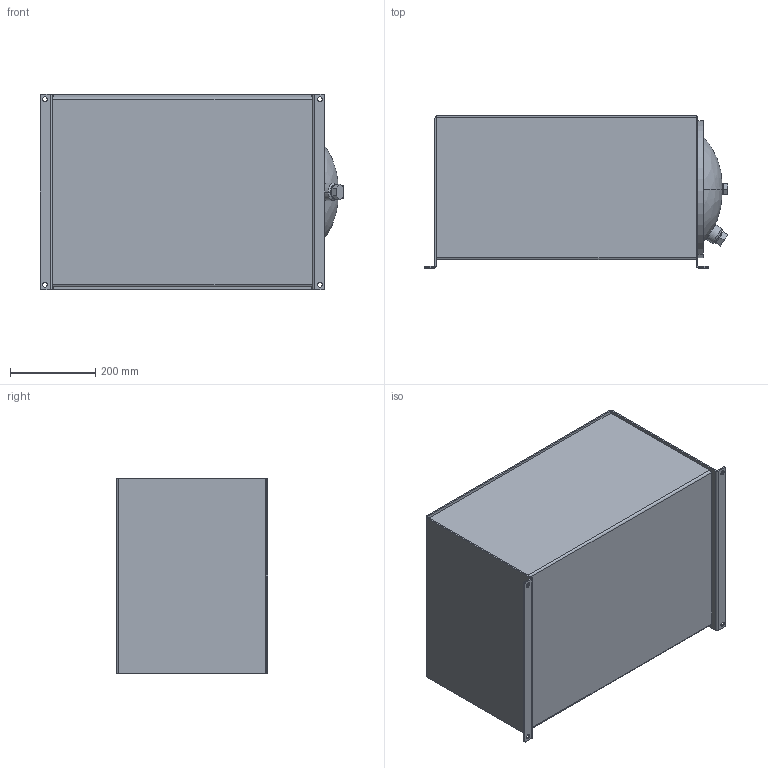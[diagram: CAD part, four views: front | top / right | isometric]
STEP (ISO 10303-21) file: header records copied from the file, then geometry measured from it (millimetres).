
FILE_DESCRIPTION (( 'STEP AP214' ), '1' );
FILE_NAME ('TH-20-FAB.STEP', '2019-08-15T14:11:14', ( '' ), ( '' ), 'SwSTEP 2.0', 'SolidWorks 2013', '' );
FILE_SCHEMA (( 'AUTOMOTIVE_DESIGN' ));
Length unit declared in the file: inch
Products named in the file (11): 0.625 - 11 BAFFLE NUT; 0.625 - 11 HEX BOLT; TL-ECD-12; DRAIN; TH-20-BDY; TH-20-BFL; 12.00 END COVER WITH DRAIN; TH-20-TOP; CRUSH WASHER; 12.00 GASKET; TH-20-FAB
Assembly tree (10 placements, depth 3):
  TH-20-FAB
    TH-20-TOP
    TH-20-BDY
    TH-20-BFL
    TL-ECD-12
      0.625 - 11 HEX BOLT
      0.625 - 11 BAFFLE NUT
      12.00 GASKET
      CRUSH WASHER
      12.00 END COVER WITH DRAIN
      DRAIN
Bounding box: 711.81 x 355.6 x 457.2 mm (x, y, z)
Volume: 5483501.2 mm3; surface area: 3148829.5 mm2
Topology: 10 solids, 10 shells, 178 faces, 404 edges, 252 vertices
Faces by surface type: plane 98, cylinder 70, cone 6, bspline 4
Entity records: 6505 total; most frequent: CARTESIAN_POINT 1102, DIRECTION 924, ORIENTED_EDGE 808, EDGE_CURVE 404, AXIS2_PLACEMENT_3D 340, VERTEX_POINT 252, LINE 244, VECTOR 244
